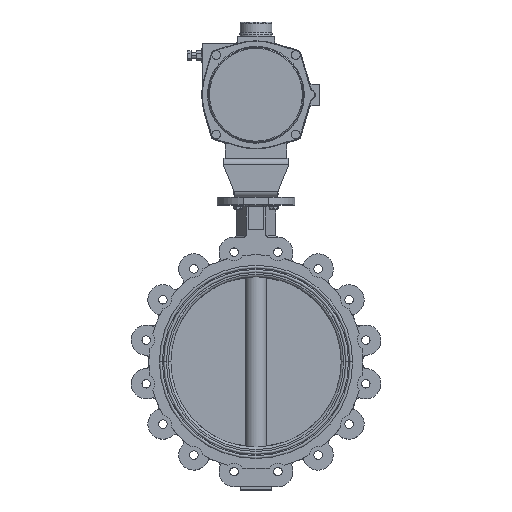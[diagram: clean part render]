
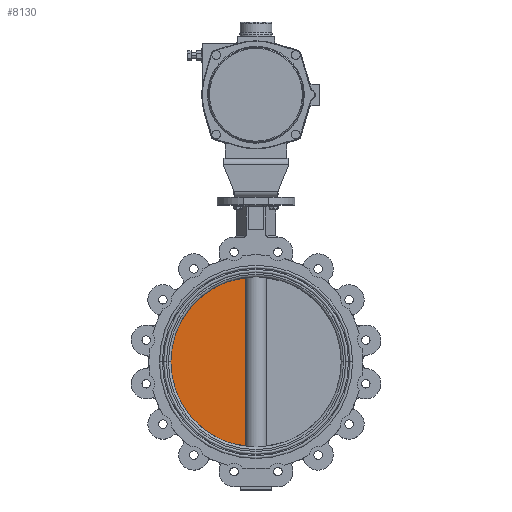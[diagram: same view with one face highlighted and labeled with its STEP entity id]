
A CAD part, top view. The second image highlights one B-rep face of the part: STEP entity #8130.
In plain terms, the highlighted planar face has unit normal (0, 0, 1).
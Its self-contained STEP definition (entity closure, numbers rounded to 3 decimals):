
#953 = AXIS2_PLACEMENT_3D ( 'NONE', #12938, #8904, #10904 ) ;
#1435 = ORIENTED_EDGE ( 'NONE', *, *, #22457, .F. ) ;
#2000 = CARTESIAN_POINT ( 'NONE',  ( -21.166, -173.715, 6. ) ) ;
#4314 = CARTESIAN_POINT ( 'NONE',  ( 0., 0., 6. ) ) ;
#5643 = CARTESIAN_POINT ( 'NONE',  ( -177., 369.501, 6. ) ) ;
#6297 = VERTEX_POINT ( 'NONE', #18638 ) ;
#8130 = ADVANCED_FACE ( 'NONE', ( #26829 ), #27250, .F. ) ;
#8887 = DIRECTION ( 'NONE',  ( -1., 0., 0. ) ) ;
#8904 = DIRECTION ( 'NONE',  ( 0., 0., -1. ) ) ;
#9712 = CARTESIAN_POINT ( 'NONE',  ( -21.166, 369.501, 6. ) ) ;
#9995 = LINE ( 'NONE', #9712, #14238 ) ;
#10430 = AXIS2_PLACEMENT_3D ( 'NONE', #5643, #16538, #14809 ) ;
#10754 = ORIENTED_EDGE ( 'NONE', *, *, #27952, .F. ) ;
#10904 = DIRECTION ( 'NONE',  ( -1., 0., 0. ) ) ;
#12726 = EDGE_LOOP ( 'NONE', ( #1435, #10754, #20979 ) ) ;
#12938 = CARTESIAN_POINT ( 'NONE',  ( 0., 0., 6. ) ) ;
#14238 = VECTOR ( 'NONE', #14607, 1000. ) ;
#14607 = DIRECTION ( 'NONE',  ( 0., -1., 0. ) ) ;
#14809 = DIRECTION ( 'NONE',  ( -1., 0., 0. ) ) ;
#16538 = DIRECTION ( 'NONE',  ( 0., 0., -1. ) ) ;
#17351 = DIRECTION ( 'NONE',  ( 0., 0., -1. ) ) ;
#17897 = CIRCLE ( 'NONE', #953, 175. ) ;
#18638 = CARTESIAN_POINT ( 'NONE',  ( -175., 0., 6. ) ) ;
#20707 = VERTEX_POINT ( 'NONE', #22233 ) ;
#20814 = CIRCLE ( 'NONE', #21745, 175. ) ;
#20979 = ORIENTED_EDGE ( 'NONE', *, *, #25303, .F. ) ;
#21745 = AXIS2_PLACEMENT_3D ( 'NONE', #4314, #17351, #8887 ) ;
#22233 = CARTESIAN_POINT ( 'NONE',  ( -21.166, 173.715, 6. ) ) ;
#22457 = EDGE_CURVE ( 'NONE', #27099, #6297, #20814, .T. ) ;
#25303 = EDGE_CURVE ( 'NONE', #6297, #20707, #17897, .T. ) ;
#26829 = FACE_OUTER_BOUND ( 'NONE', #12726, .T. ) ;
#27099 = VERTEX_POINT ( 'NONE', #2000 ) ;
#27250 = PLANE ( 'NONE',  #10430 ) ;
#27952 = EDGE_CURVE ( 'NONE', #20707, #27099, #9995, .T. ) ;
